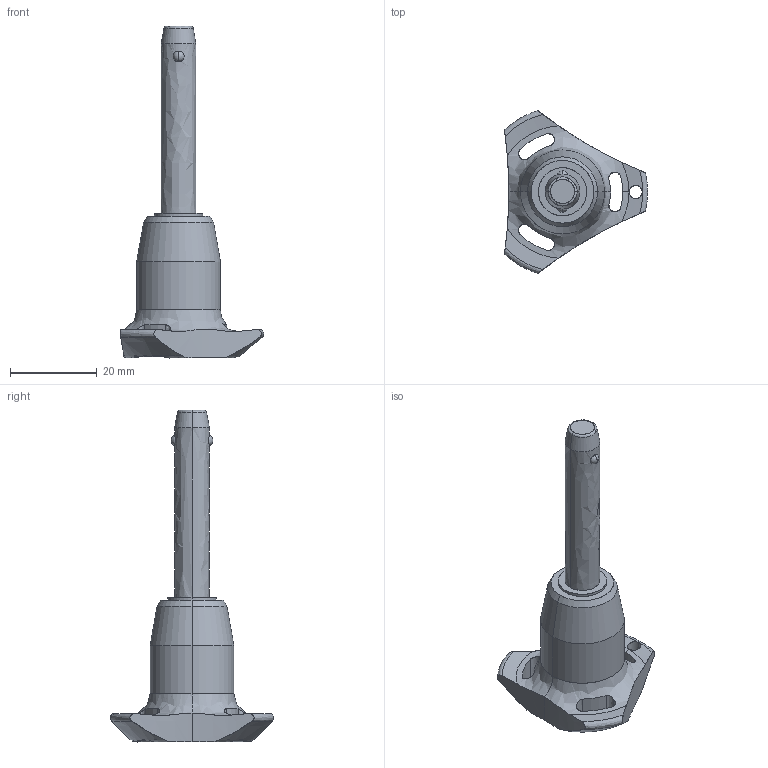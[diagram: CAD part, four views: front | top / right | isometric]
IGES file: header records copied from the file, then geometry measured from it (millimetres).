
Start section: SolidWorks IGES file using analytic representation for surfaces
Global section: file name: C:\Users\ianosborn\Desktop\QR1724_v2\QR1724_v2_20251112_IGES\QR1724.M08-035-S.igs; native system: SolidWorks 2019; preprocessor: SolidWorks 2019; author: IanOsborn; date: 251112.124917; units: millimetre
Bounding box: 33 x 37.51 x 76.5 mm (x, y, z)
Surface area: 4934.2 mm2 (no closed solid volume)
Topology: 0 solids, 0 shells, 65 faces, 1274 edges, 1270 vertices
Faces by surface type: revolution 50, bspline 15
